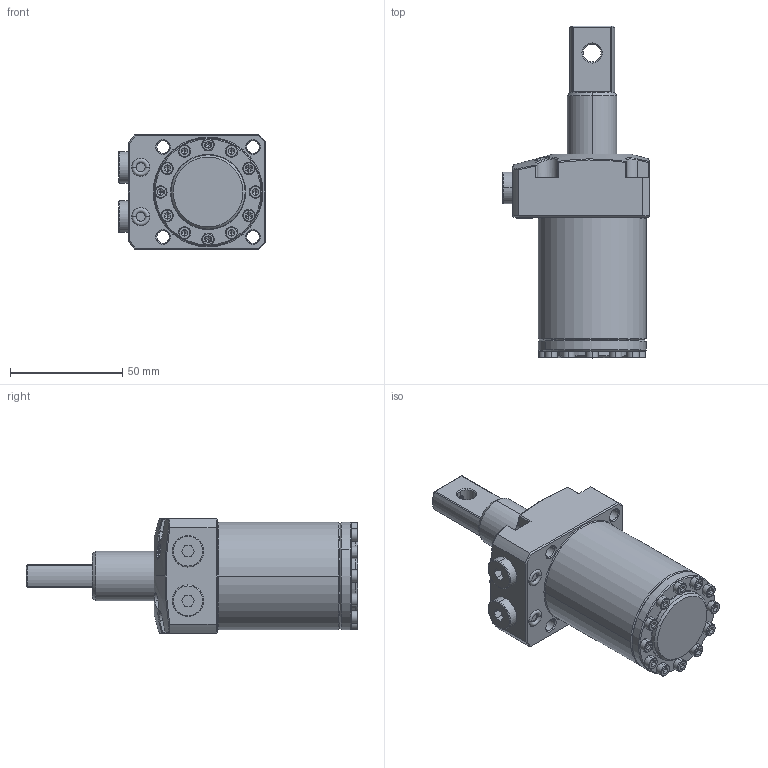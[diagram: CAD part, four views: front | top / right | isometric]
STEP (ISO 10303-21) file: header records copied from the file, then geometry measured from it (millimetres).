
FILE_DESCRIPTION((''),'2;1');
FILE_NAME('SIMP_GENERIC_SWING_CYD_48_PIN_ASM','2023-04-16T14:15:47',('Design 2'),(''),'CREO PARAMETRIC BY PTC INC, 2020053','CREO PARAMETRIC BY PTC INC, 2020053','');
FILE_SCHEMA(('CONFIG_CONTROL_DESIGN'));
Length unit declared in the file: millimetre
Products named in the file (13): BODY___; BODY_TOP_FLG____ASM; PIN_PISTON_; PISTON_ASM____ASM; SWINGER_ARM___; SWINGER_ARM_ASM____ASM; 1___; 2___; HALDER_SEALING_PPLUG_ASM; ISHCS03X10_; STATIC-O-RING-8X2___; G-1-8-CLOSE_PLUGE_; SIMP_GENERIC_SWING_CYD_48_PIN_ASM
Assembly tree (26 placements, depth 3):
  SIMP_GENERIC_SWING_CYD_48_PIN_ASM
    BODY_TOP_FLG____ASM
      BODY___
    PISTON_ASM____ASM
      PIN_PISTON_
    SWINGER_ARM_ASM____ASM
      SWINGER_ARM___
    HALDER_SEALING_PPLUG_ASM  x2
      1___
      2___
    ISHCS03X10_  x12
    STATIC-O-RING-8X2___  x2
    G-1-8-CLOSE_PLUGE_  x2
Bounding box: 65.3 x 147.6 x 51 mm (x, y, z)
Volume: 194710.5 mm3; surface area: 45664.4 mm2
Topology: 23 solids, 23 shells, 873 faces, 1930 edges, 1113 vertices
Faces by surface type: plane 274, cylinder 261, cone 254, torus 40, bspline 38, sphere 6
Entity records: 16880 total; most frequent: CARTESIAN_POINT 6343, DIRECTION 2180, ORIENTED_EDGE 2080, EDGE_CURVE 1040, AXIS2_PLACEMENT_3D 857, VERTEX_POINT 623, EDGE_LOOP 521, VECTOR 466
